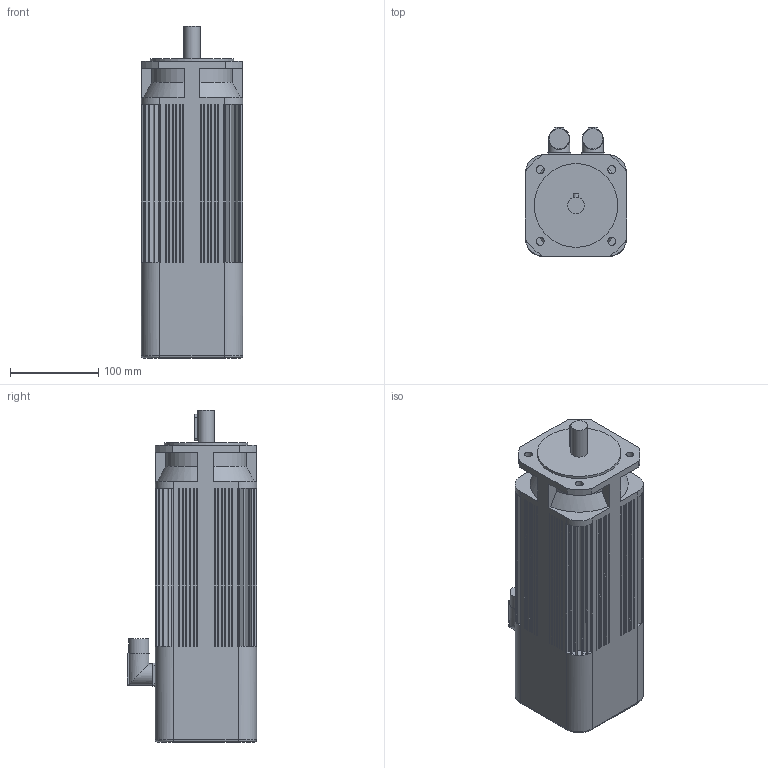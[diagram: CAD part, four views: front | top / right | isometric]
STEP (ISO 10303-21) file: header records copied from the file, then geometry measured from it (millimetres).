
FILE_DESCRIPTION(/* description */ (''),/* implementation_level */ '2;1');
FILE_NAME(/* name */ '\\Lafnas01\disegni\Archivi Lafert\3D\CAD 3D\MODELLI\Assiemi clienti\Serad\Modelli 3D Serad\B63I\Encoder\Enc With Brake\B6308Ixx6BRx2033.ipt.stp',/* time_stamp */ '2015-09-07T10:50:31+02:00',/* author */ ('Pastrello Ylenia'),/* organization */ (''),/* preprocessor_version */ 'ST-DEVELOPER v15.6',/* originating_system */ 'Autodesk Inventor 2015',/* authorisation */ '');
FILE_SCHEMA (('AUTOMOTIVE_DESIGN { 1 0 10303 214 3 1 1 }'));
Length unit declared in the file: millimetre
Products named in the file (1): B6308Ixx6BRx2033
Bounding box: 115 x 146.5 x 376.5 mm (x, y, z)
Volume: 4158753.3 mm3; surface area: 231933.3 mm2
Topology: 1 solids, 1 shells, 445 faces, 1091 edges, 704 vertices
Faces by surface type: plane 351, cylinder 86, cone 4, torus 4
Full cylindrical faces by diameter (mm): 9 x4, 19 x1, 22.7 x2, 24 x2, 95 x1
Entity records: 13008 total; most frequent: CARTESIAN_POINT 2276, DIRECTION 2254, ORIENTED_EDGE 2156, EDGE_CURVE 1078, LINE 774, VECTOR 774, AXIS2_PLACEMENT_3D 740, VERTEX_POINT 702
